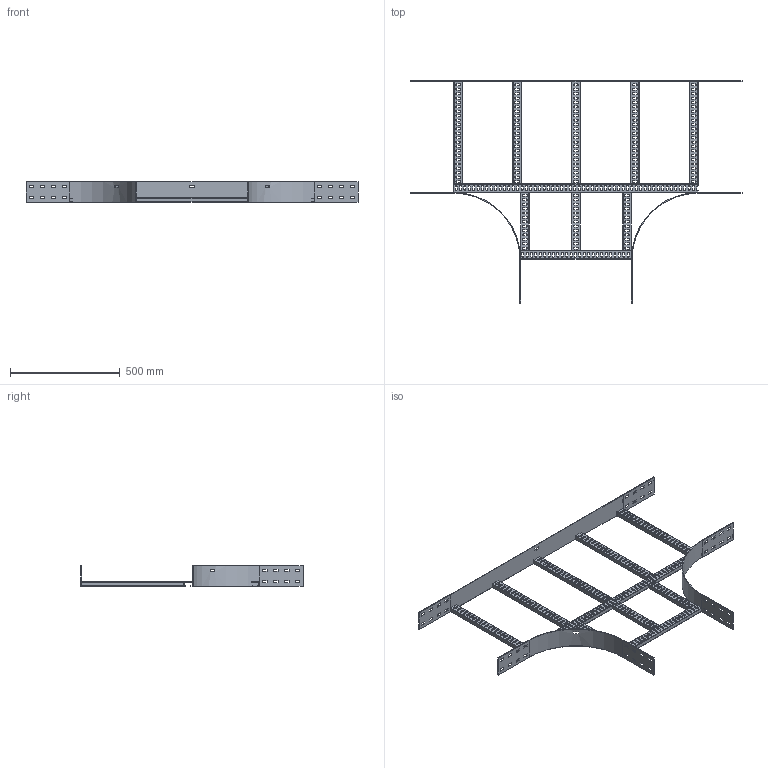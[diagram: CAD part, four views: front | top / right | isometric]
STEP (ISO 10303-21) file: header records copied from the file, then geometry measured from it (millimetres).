
FILE_DESCRIPTION(/* description */ ('','CAx-IF Rec.Pracs.---Representation and Presentation of Product Manufacturing Information (PMI)---4.0---2014-10-13'),/* implementation_level */ '2;1');
FILE_NAME(/* name */ 'Eurostrut_EET100-500-300_T-Piece for Cable Ladder ECL.step',/* time_stamp */ '2026-09-03T15:51:14+02:00',/* author */ (''),/* organization */ (''),/* preprocessor_version */ 'ST-DEVELOPER v20.1',/* originating_system */ 'Autodesk Revit 2027 27.2.0.39',/* authorisation */ '');
FILE_SCHEMA (('AP242_MANAGED_MODEL_BASED_3D_ENGINEERING_MIM_LF { 1 0 10303 442 2 1 4 }'));
Products named in the file (9): TopLevelAssembly; Sweep; Sweep_1; Eurostrut_Cable Ladder_Rung_With slots; Eurostrut_Cable Ladder_Rung_With slots_1; Eurostrut_Cable Ladder_Rung Array Straight_Slotted; Eurostrut_Cable Ladder_Rung Array Straight_Slotted_1; Sweep_2; Eurostrut_Cable Ladder_Accessory End_54-94-142
Assembly tree (13 placements, depth 2):
  TopLevelAssembly
    Sweep
    Sweep_1
    Eurostrut_Cable Ladder_Rung_With slots
    Eurostrut_Cable Ladder_Rung_With slots_1
    Eurostrut_Cable Ladder_Rung Array Straight_Slotted
    Eurostrut_Cable Ladder_Rung Array Straight_Slotted_1
    Sweep_2
    Eurostrut_Cable Ladder_Accessory End_54-94-142  x6
Bounding box: 1511 x 1011 x 94.04 mm (x, y, z)
Volume: 1461526.6 mm3; surface area: 1431790.6 mm2
Topology: 19 solids, 19 shells, 1378 faces, 4020 edges, 2680 vertices
Faces by surface type: plane 864, bspline 470, cylinder 44
Entity records: 53898 total; most frequent: CARTESIAN_POINT 21516, ORIENTED_EDGE 6960, DIRECTION 5996, EDGE_CURVE 3480, LINE 2444, VECTOR 2444, VERTEX_POINT 2320, AXIS2_PLACEMENT_3D 1776
